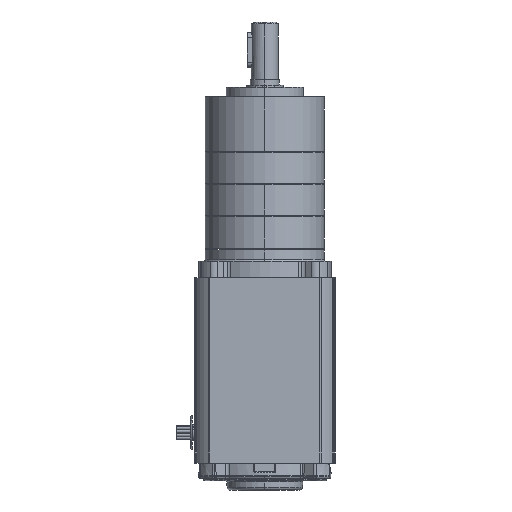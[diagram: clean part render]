
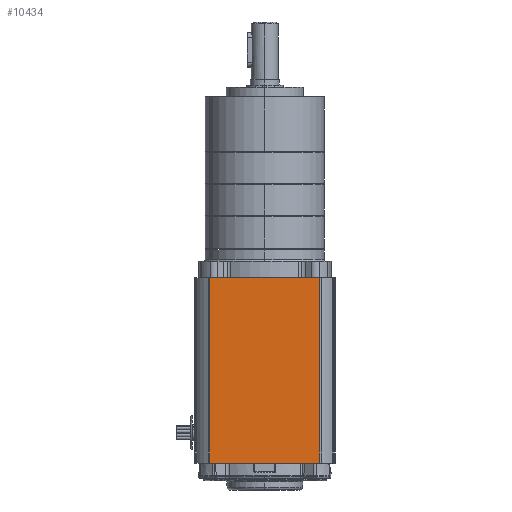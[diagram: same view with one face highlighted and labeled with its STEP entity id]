
A CAD part, left-side view. The second image highlights one B-rep face of the part: STEP entity #10434.
In plain terms, the highlighted planar face has unit normal (-1, 0, 0).
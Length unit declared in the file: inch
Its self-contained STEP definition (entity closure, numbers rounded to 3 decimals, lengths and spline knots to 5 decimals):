
#2640 = PLANE ( 'NONE',  #16328 ) ;
#3211 = DIRECTION ( 'NONE',  ( -1., 0., 0. ) ) ;
#4009 = VECTOR ( 'NONE', #51606, 39.37008 ) ;
#4210 = VERTEX_POINT ( 'NONE', #7846 ) ;
#5226 = LINE ( 'NONE', #7178, #27077 ) ;
#7178 = CARTESIAN_POINT ( 'NONE',  ( -1.442, -1.1275, -5.62954 ) ) ;
#7846 = CARTESIAN_POINT ( 'NONE',  ( -1.442, -1.1275, -5.62954 ) ) ;
#8893 = VECTOR ( 'NONE', #55764, 39.37008 ) ;
#9708 = VERTEX_POINT ( 'NONE', #41232 ) ;
#9859 = CARTESIAN_POINT ( 'NONE',  ( -1.442, 1.1275, -1.83454 ) ) ;
#10434 = ADVANCED_FACE ( 'NONE', ( #50837 ), #2640, .T. ) ;
#11311 = EDGE_CURVE ( 'NONE', #4210, #48335, #39096, .T. ) ;
#14209 = EDGE_CURVE ( 'NONE', #4210, #9708, #5226, .T. ) ;
#15690 = LINE ( 'NONE', #16607, #4009 ) ;
#16328 = AXIS2_PLACEMENT_3D ( 'NONE', #29347, #3211, #33713 ) ;
#16607 = CARTESIAN_POINT ( 'NONE',  ( -1.442, 1.1275, -5.76454 ) ) ;
#18927 = EDGE_CURVE ( 'NONE', #19222, #48335, #20530, .T. ) ;
#19222 = VERTEX_POINT ( 'NONE', #9859 ) ;
#20530 = LINE ( 'NONE', #42694, #8893 ) ;
#22672 = EDGE_LOOP ( 'NONE', ( #24334, #44497, #36557, #44499 ) ) ;
#24334 = ORIENTED_EDGE ( 'NONE', *, *, #51042, .T. ) ;
#27077 = VECTOR ( 'NONE', #42061, 39.37008 ) ;
#29347 = CARTESIAN_POINT ( 'NONE',  ( -1.442, 1.1475, -5.76454 ) ) ;
#33713 = DIRECTION ( 'NONE',  ( 0., 0., 1. ) ) ;
#36557 = ORIENTED_EDGE ( 'NONE', *, *, #11311, .T. ) ;
#39096 = LINE ( 'NONE', #39598, #40441 ) ;
#39598 = CARTESIAN_POINT ( 'NONE',  ( -1.442, -1.1275, -5.76454 ) ) ;
#40441 = VECTOR ( 'NONE', #43963, 39.37008 ) ;
#41232 = CARTESIAN_POINT ( 'NONE',  ( -1.442, 1.1275, -5.62954 ) ) ;
#42061 = DIRECTION ( 'NONE',  ( 0., 1., 0. ) ) ;
#42694 = CARTESIAN_POINT ( 'NONE',  ( -1.442, 1.1475, -1.83454 ) ) ;
#43963 = DIRECTION ( 'NONE',  ( 0., 0., 1. ) ) ;
#44497 = ORIENTED_EDGE ( 'NONE', *, *, #14209, .F. ) ;
#44499 = ORIENTED_EDGE ( 'NONE', *, *, #18927, .F. ) ;
#48335 = VERTEX_POINT ( 'NONE', #51628 ) ;
#50837 = FACE_OUTER_BOUND ( 'NONE', #22672, .T. ) ;
#51042 = EDGE_CURVE ( 'NONE', #19222, #9708, #15690, .T. ) ;
#51606 = DIRECTION ( 'NONE',  ( 0., 0., -1. ) ) ;
#51628 = CARTESIAN_POINT ( 'NONE',  ( -1.442, -1.1275, -1.83454 ) ) ;
#55764 = DIRECTION ( 'NONE',  ( 0., -1., 0. ) ) ;
